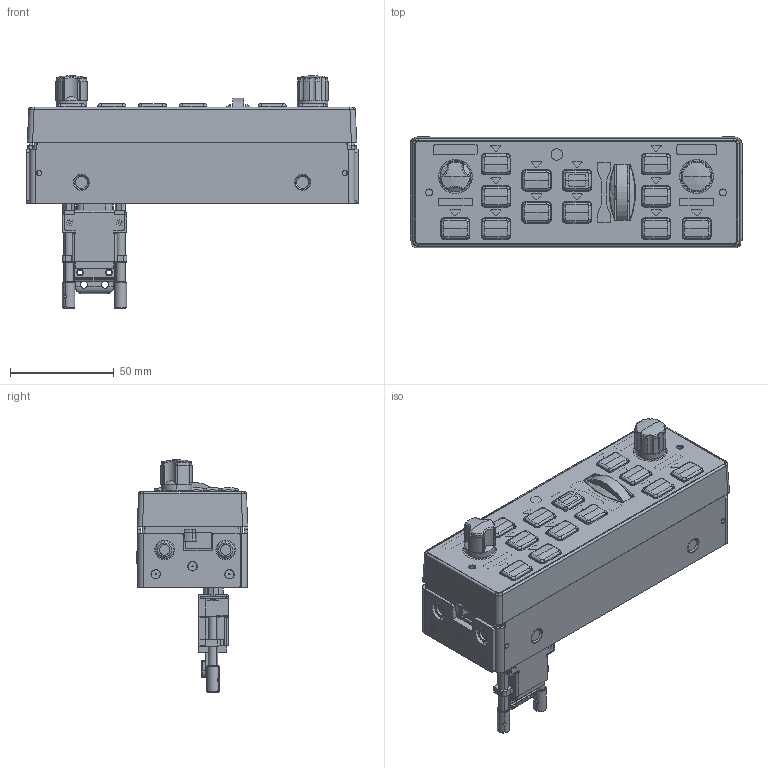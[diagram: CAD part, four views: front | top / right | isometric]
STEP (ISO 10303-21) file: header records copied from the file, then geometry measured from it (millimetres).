
FILE_DESCRIPTION (( 'STEP AP203' ), '1' );
FILE_NAME ('GMC507_011-04548-00_R[010-12700-10]_C[011-01824-01]_rev1.STEP', '2018-06-06T16:30:47', ( 'Garmin' ), ( 'Garmin' ), 'SwSTEP 2.0', 'SolidWorks 2016', '' );
FILE_SCHEMA (( 'CONFIG_CONTROL_DESIGN' ));
Products named in the file (1): GMC507_011-04548-00_R[010-12700-10]_C[011-01824-01]_rev1
Bounding box: 160.02 x 53.85 x 112.08 mm (x, y, z)
Volume: 375760.7 mm3; surface area: 101503.9 mm2
Topology: 3 solids, 55 shells, 3760 faces, 9532 edges, 6171 vertices
Faces by surface type: plane 1849, cylinder 849, bspline 549, cone 358, torus 117, sphere 38
Entity records: 145836 total; most frequent: CARTESIAN_POINT 58157, ORIENTED_EDGE 19004, DIRECTION 16712, EDGE_CURVE 9502, VERTEX_POINT 6163, AXIS2_PLACEMENT_3D 5743, LINE 5226, VECTOR 5226
